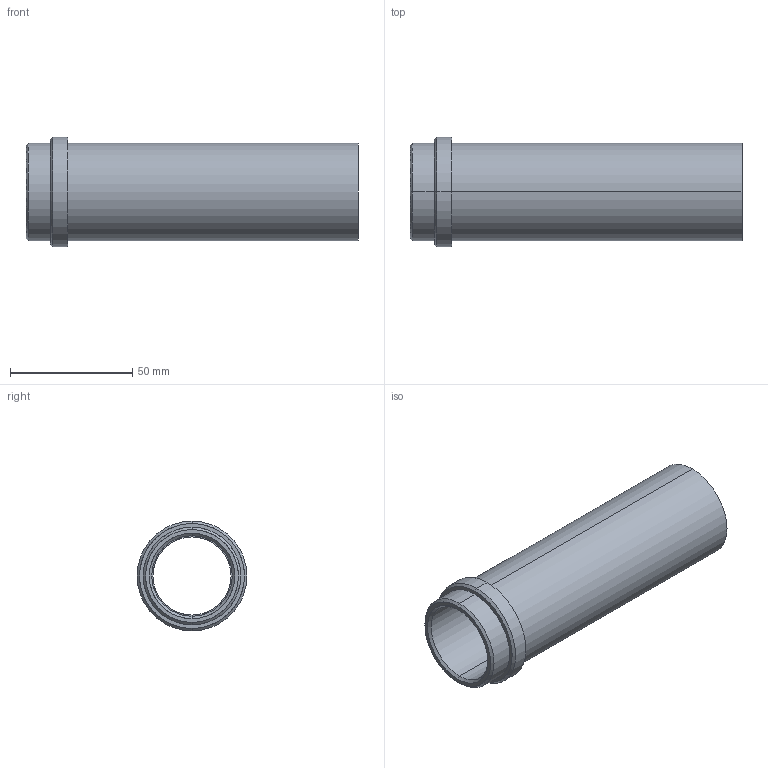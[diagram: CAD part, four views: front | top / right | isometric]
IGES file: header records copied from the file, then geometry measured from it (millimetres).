
Start section: START RECORD GO HERE.
Global section: file name: 358-32x136.igs; native system: DASSAULT SYSTEMES CATIA V5 R20 - www.3ds.com; preprocessor: CATIA Version 5 Release 20 ; author: Utente; organization: NB04-ASUS; date: 20210409.152413; units: millimetre
Bounding box: 136 x 45 x 45 mm (x, y, z)
Surface area: 32368 mm2 (no closed solid volume)
Topology: 0 solids, 0 shells, 23 faces, 148 edges, 148 vertices
Faces by surface type: revolution 18, plane 5
